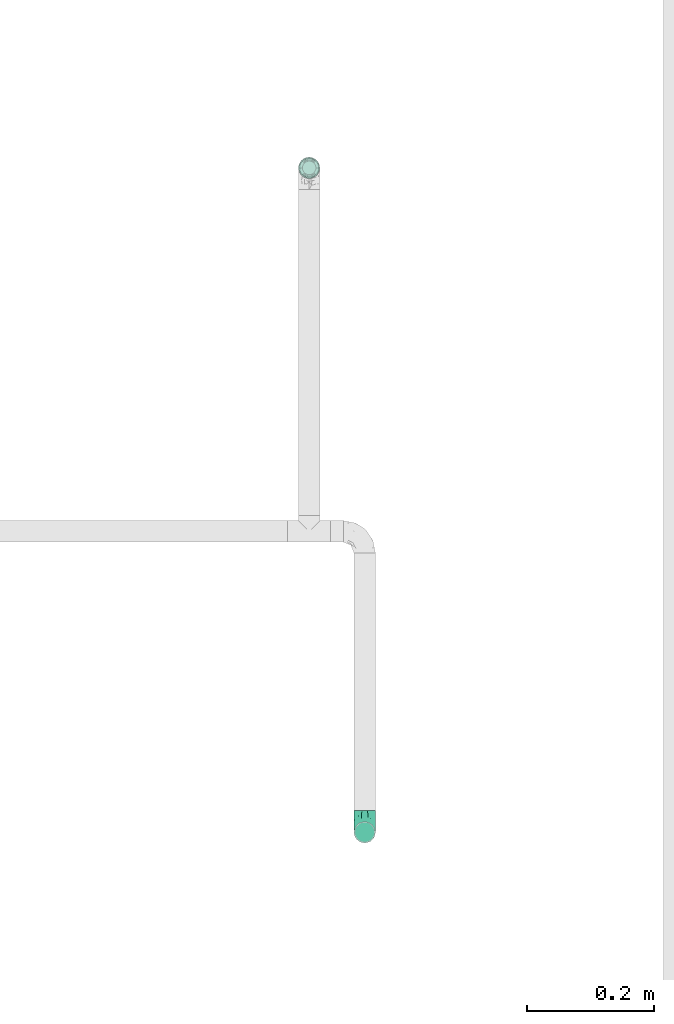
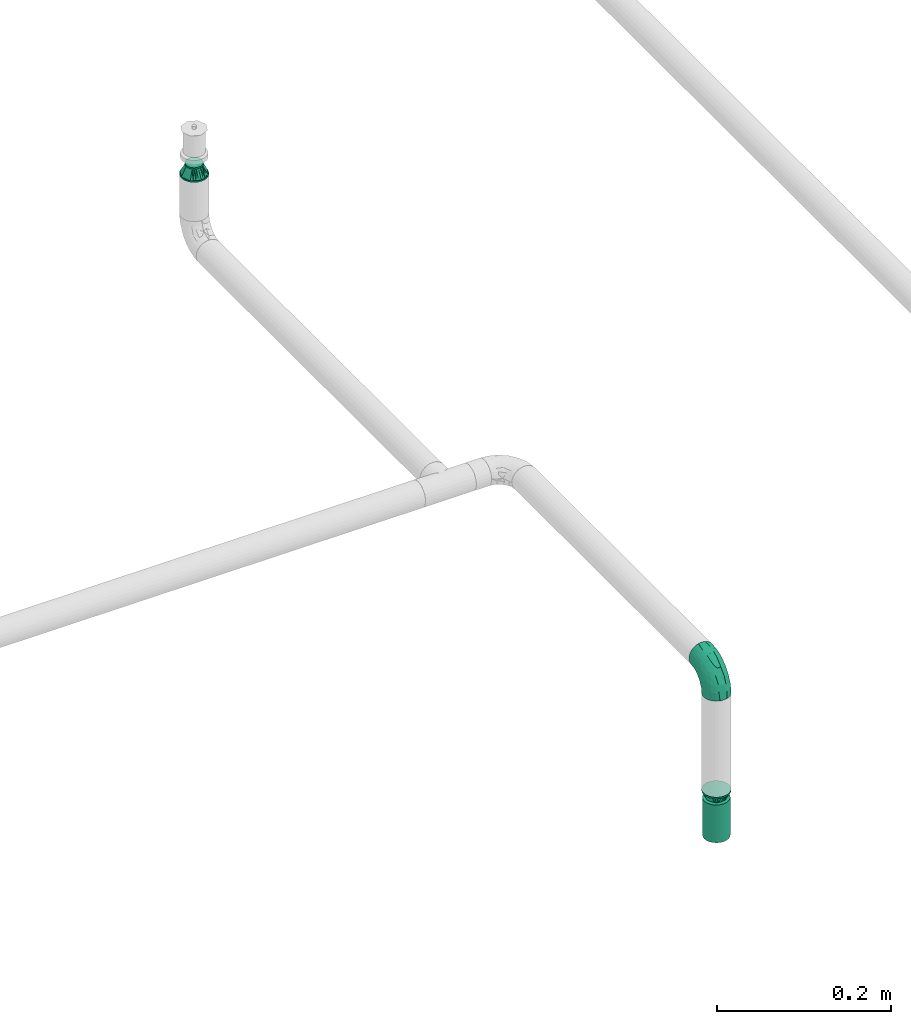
# One storey, part 123 of 157: 3 flow fittings, 1 flow terminal.
"""IFC2X3 building model written with IfcOpenShell, lengths in millimetres."""

from ifc_helpers import new_model, entity, si_unit, converted_unit, derived_unit, direction, frame, origin_with_axes, place, context, subcontext, project, spatial, open_shell, surface_model, source, transform, mapped, type_object, element, save


model = new_model("IFC2X3")

# Units and contexts
model_context = context("Model", 3, precision=0.01, world=frame((0.0, 4.29681676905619e-09, 0.0)), true_north=direction((4.01073788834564e-13, 1.0)))
plan_context = context("Plan", 3, precision=0.01, world=frame((0.0, 4.29681676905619e-09, 0.0)), true_north=direction((4.01073788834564e-13, 1.0)))
body_context = subcontext(model_context, "Body", "Model", "MODEL_VIEW")
ifc_project = project(units=[converted_unit("PLANEANGLEUNIT", "DEGREE", entity("IfcPositiveLengthMeasure", 0.0174532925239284), si_unit("PLANEANGLEUNIT", "RADIAN"), dimensions=[0, 0, 0, 0, 0, 0, 0]), si_unit("AREAUNIT", "SQUARE_METRE"), si_unit("LENGTHUNIT", "METRE", prefix="MILLI"), si_unit("MASSUNIT", "GRAM", prefix="KILO"), si_unit("POWERUNIT", "WATT"), si_unit("PRESSUREUNIT", "PASCAL"), si_unit("FORCEUNIT", "NEWTON", prefix="KILO"), si_unit("ELECTRICCURRENTUNIT", "AMPERE"), si_unit("THERMODYNAMICTEMPERATUREUNIT", "DEGREE_CELSIUS"), si_unit("TIMEUNIT", "SECOND"), si_unit("VOLUMEUNIT", "CUBIC_METRE"), derived_unit("LINEARVELOCITYUNIT", [(si_unit("LENGTHUNIT", "METRE"), 1), (si_unit("TIMEUNIT", "SECOND"), -1)]), derived_unit("VOLUMETRICFLOWRATEUNIT", [(si_unit("VOLUMEUNIT", "CUBIC_METRE"), 1), (si_unit("TIMEUNIT", "SECOND"), -1)]), derived_unit("THERMALTRANSMITTANCEUNIT", [(si_unit("POWERUNIT", "WATT"), 1), (si_unit("THERMODYNAMICTEMPERATUREUNIT", "KELVIN"), -1), (si_unit("AREAUNIT", "SQUARE_METRE"), -1)])], contexts=[model_context, plan_context])

# Site, building, storey
site_placement = place(None, frame((0.0, -4.29681676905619e-09, 0.0), z_axis=(0.0, 0.0, 1.0), x_axis=(1.0, 0.0, 0.0)))
site = spatial("IfcSite", under=ifc_project, at=site_placement, CompositionType="ELEMENT")
building_placement = place(site_placement, frame((0.0, 4.29681676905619e-09, 0.0), z_axis=(0.0, 0.0, 1.0), x_axis=(1.0, 0.0, 0.0)))
building = spatial("IfcBuilding", under=site, at=building_placement, Name="mc-building", CompositionType="ELEMENT")
storey_placement = place(building_placement, frame((0.0, 0.0, 204000.0), z_axis=(0.0, 0.0, 1.0), x_axis=(1.0, 0.0, 0.0)))
storey = spatial("IfcBuildingStorey", under=building, at=storey_placement, Name="Nivå D", CompositionType="ELEMENT", Elevation=204000.0)

# Flow fittings
pipe_fitting_type_1 = type_object("IfcPipeFittingType", Name="magi_pipe_fe_elbow_short_001", PredefinedType="BEND")
shared_shape_1 = source(origin_with_axes(), body_context, "Body", "SurfaceModel", [
    surface_model("IfcShellBasedSurfaceModel", [(-33.8, 8.45, -14.63583), (-33.8, 4.37404, -16.32415), (-33.8, 11.9501, -11.9501), (-33.8, -11.9501, -11.9501), (-33.8, -14.63583, -8.45), (-33.8, -8.45, -14.63583), (-33.8, 0.0, -16.9), (-33.8, -4.37404, -16.32415), (-33.8, -4.37404, 16.32415), (-33.8, 0.0, 16.9), (-33.8, -8.45, 14.63583), (-33.8, 16.32415, -4.37404), (-33.8, 14.63583, -8.45), (-33.8, -16.32415, -4.37404), (-33.8, -16.9, 0.0), (-33.8, -16.32415, 4.37404), (-33.8, 11.9501, 11.9501), (-33.8, 14.63583, 8.45), (-33.8, 16.32415, 4.37404), (-33.8, 4.37404, 16.32415), (-33.8, 8.45, 14.63583), (-33.8, -14.63583, 8.45), (-33.8, -11.9501, 11.9501), (-33.8, 16.9, 0.0), (-11.9501, 33.8, -11.9501), (0.0, 33.8, -16.9), (-4.37404, 33.8, -16.32415), (-8.45, 33.8, -14.63583), (-14.63583, 33.8, -8.45), (-16.32415, 33.8, -4.37404), (14.63583, 33.8, -8.45), (8.45, 33.8, 14.63583), (16.32415, 33.8, -4.37404), (8.45, 33.8, -14.63583), (11.9501, 33.8, -11.9501), (4.37404, 33.8, -16.32415), (16.32415, 33.8, 4.37404), (16.9, 33.8, 0.0), (-11.9501, 33.8, 11.9501), (-16.32415, 33.8, 4.37404), (-14.63583, 33.8, 8.45), (-8.45, 33.8, 14.63583), (-4.37404, 33.8, 16.32415), (11.9501, 33.8, 11.9501), (14.63583, 33.8, 8.45), (0.0, 33.8, 16.9), (4.37404, 33.8, 16.32415), (-16.9, 33.8, 0.0), (-24.79389, -13.12945, 9.48721), (-22.19287, -9.75018, 12.59315), (-24.09897, -14.97035, 0.0), (-14.93934, -10.76256, 8.5297), (-22.46095, -14.75051, 5.27077), (14.75051, 22.46094, 5.27077), (11.9251, 13.23888, 4.33236), (13.04069, 14.39795, 0.0), (7.71387, 13.68847, 11.55891), (9.75018, 22.19287, 12.59315), (4.10169, 13.0571, 14.04018), (-24.84007, -6.39063, 15.2048), (-25.81779, -2.23879, 16.61097), (-23.66549, 2.59054, 16.87119), (-26.50418, 14.06512, 11.08152), (-24.21253, 17.66365, 7.72657), (-29.58514, 15.86957, 7.00283), (-6.17382, -7.5455, 0.0), (-13.23888, -11.9251, 4.33236), (-14.39795, -13.04069, 0.0), (-17.81434, 18.87373, 11.97104), (-6.30846, 29.15138, 15.82987), (-2.31622, 25.28002, 16.85849), (-29.23923, 10.23435, 13.77053), (-1.45439, -2.85688, 7.61475), (-0.28326, 0.34872, 10.09509), (-5.74484, -4.04709, 10.4122), (-4.41137, 11.31918, 16.59407), (-8.39727, 3.10034, 15.7812), (-1.72649, 9.1306, 15.53089), (-17.39909, 24.75344, 7.64977), (-26.19233, 20.0512, 0.0), (-28.14518, 17.29657, 4.25857), (-26.05147, 6.6281, 15.96447), (-5.87354, 16.61944, 16.86968), (-12.51807, 12.51807, 16.48937), (-10.06312, 7.38516, 16.81295), (-3.01882, 3.01882, 13.81718), (-13.0571, -4.10169, 14.04018), (-16.82553, -0.15166, 16.38038), (10.76256, 14.93934, 8.5297), (13.12945, 24.79389, 9.48721), (6.39063, 24.84007, 15.2048), (2.23879, 25.81779, 16.61097), (-13.68847, -7.71387, 11.55891), (14.97035, 24.09897, 0.0), (-7.30894, 22.89991, 16.09489), (-10.67958, 26.17414, 14.008), (-12.78295, 18.26924, 15.06066), (-13.88562, 22.45231, 12.93244), (-18.04944, 15.16501, 14.04434), (-23.11658, 20.08178, 4.02986), (-21.84989, 21.84989, 0.0), (-18.55817, 25.48277, 3.93065), (-13.95142, 26.94732, 11.03289), (-18.57098, 7.23906, 16.59756), (-16.58335, 4.14122, 16.89279), (-17.96666, 11.46709, 15.63151), (-9.84453, 17.54304, 16.18938), (0.15166, 16.82553, 16.38038), (-23.27207, 11.47201, 14.23154), (3.84842, 5.86994, 10.70473), (-8.0212, -7.54413, 7.93275), (1.00345, -2.19508, 4.57414), (5.13203, 3.01004, 5.90201), (5.24161, 1.7543, 2.53265), (8.70457, 7.04947, 3.99182), (-20.0512, 26.19233, 0.0), (8.4852, 8.76699, 7.09296), (-4.55488, -6.72064, 4.90681), (2.05031, -2.05031, 0.0), (7.5455, 6.17382, 0.0), (-26.75399, 2.1369, -16.845), (-14.61995, 24.73803, -11.27736), (-28.45274, -13.45335, -9.81895), (-26.00469, 6.63555, -15.96645), (-23.06726, 20.04573, -4.26202), (-13.80647, -4.26506, -14.17873), (-14.67501, -0.21081, -16.07388), (-6.7902, -0.2828, -13.8478), (-24.53586, 11.08096, -14.13417), (-26.72048, 14.00837, -11.05776), (10.0967, 24.44989, -12.75976), (5.83237, 21.40218, -15.03047), (6.66249, 28.54238, -15.38093), (-20.38182, 15.48705, -12.74596), (12.53268, 21.23441, -9.15363), (12.54494, 15.67504, -5.54878), (9.7522, 12.89279, -8.66343), (-15.65186, 19.64213, -13.01327), (-12.03528, 20.66498, -14.67665), (-15.61907, 15.61906, -14.83879), (-25.56551, -15.26206, 0.0), (-24.65452, -15.12934, -5.50955), (13.45335, 28.45274, -9.81895), (15.12934, 24.65452, -5.50955), (-7.35442, -8.31014, -5.65563), (-15.67504, -12.54494, -5.54878), (-24.44989, -10.0967, -12.75976), (0.16522, 0.41303, -9.71728), (-5.70658, -5.33066, -8.89288), (-5.13869, -2.37198, -11.53565), (-21.23441, -12.53268, -9.15363), (0.71146, 7.93863, -14.09382), (0.21081, 14.67501, -16.07388), (3.49291, 14.42772, -14.76381), (-24.89911, -2.13088, -16.591), (-28.54238, -6.66249, -15.38093), (-18.44386, -7.71663, -13.26957), (2.13088, 24.89911, -16.591), (-28.64342, 17.44413, -2.89318), (1.70017, -1.28722, -5.09504), (-16.57067, 26.81947, -7.36596), (-17.69055, 27.4263, -3.76405), (-12.89279, -9.7522, -8.66343), (-5.96611, 5.96611, -15.95814), (-20.53709, 20.09345, -8.28985), (-2.1369, 26.75399, -16.845), (-6.89872, 24.58781, -16.02578), (-10.60739, 26.53157, -13.98044), (-21.40218, -5.83237, -15.03047), (2.93192, 5.89627, -11.55917), (6.89393, 12.61842, -11.82233), (5.58056, 5.95325, -8.79455), (-3.99512, 18.61798, -16.89635), (8.31014, 7.35442, -5.65563), (-9.1383, 9.86148, -16.89041), (-9.99983, 16.02119, -16.39699), (-16.68576, 9.78031, -16.34199), (-27.01915, 16.61158, -7.12979), (15.26206, 25.56551, 0.0), (-18.61798, 3.99512, -16.89635), (-19.37495, 27.82495, 0.0), (-12.61842, -6.89393, -11.82233), (-18.84705, 19.14018, -10.96545)], [open_shell([[[0, 1, 2]], [[3, 4, 5]], [[6, 7, 5]], [[8, 9, 10]], [[1, 6, 2]], [[11, 12, 2]], [[4, 2, 6]], [[2, 13, 10]], [[5, 4, 6]], [[2, 4, 13]], [[14, 15, 13]], [[11, 2, 16]], [[11, 17, 18]], [[11, 16, 17]], [[19, 20, 16]], [[16, 2, 10]], [[19, 16, 10]], [[21, 22, 15]], [[22, 13, 15]], [[22, 10, 13]], [[10, 9, 19]], [[11, 18, 23]], [[24, 25, 26]], [[24, 26, 27]], [[24, 28, 29]], [[25, 24, 30]], [[31, 32, 24]], [[33, 30, 34]], [[33, 35, 25]], [[25, 30, 33]], [[32, 30, 24]], [[32, 36, 37]], [[38, 24, 29]], [[39, 40, 29]], [[40, 38, 29]], [[38, 41, 42]], [[38, 31, 24]], [[31, 38, 42]], [[36, 43, 44]], [[36, 32, 43]], [[31, 45, 46]], [[32, 31, 43]], [[42, 45, 31]], [[39, 29, 47]], [[22, 48, 49]], [[15, 14, 50]], [[51, 48, 52]], [[53, 54, 55]], [[48, 22, 21]], [[15, 52, 21]], [[56, 57, 58]], [[49, 10, 22]], [[49, 59, 10]], [[9, 60, 61]], [[62, 63, 64]], [[65, 66, 67]], [[57, 43, 31]], [[62, 68, 63]], [[42, 69, 70]], [[20, 71, 16]], [[8, 60, 9]], [[72, 73, 74]], [[75, 76, 77]], [[16, 62, 17]], [[40, 39, 78]], [[79, 23, 80]], [[64, 18, 17]], [[9, 61, 19]], [[19, 81, 20]], [[82, 83, 84]], [[74, 85, 86]], [[59, 86, 87]], [[88, 89, 57]], [[90, 31, 46]], [[44, 53, 36]], [[46, 45, 91]], [[54, 53, 88]], [[44, 89, 53]], [[92, 86, 49]], [[89, 44, 43]], [[10, 59, 8]], [[53, 55, 93]], [[93, 36, 53]], [[66, 52, 67]], [[94, 82, 70]], [[95, 96, 94]], [[97, 98, 96]], [[79, 99, 100]], [[41, 38, 95]], [[101, 100, 99]], [[68, 78, 63]], [[42, 41, 69]], [[23, 18, 80]], [[95, 94, 69]], [[78, 101, 99]], [[38, 102, 95]], [[70, 45, 42]], [[97, 95, 102]], [[15, 50, 52]], [[90, 57, 31]], [[57, 90, 58]], [[81, 19, 61]], [[103, 104, 84]], [[105, 81, 103]], [[38, 40, 102]], [[106, 96, 83]], [[94, 106, 82]], [[91, 70, 107]], [[71, 62, 16]], [[62, 108, 98]], [[86, 59, 49]], [[67, 52, 50]], [[60, 59, 87]], [[92, 49, 51]], [[86, 85, 76]], [[91, 90, 46]], [[37, 36, 93]], [[107, 77, 58]], [[107, 58, 90]], [[58, 85, 109]], [[110, 74, 92]], [[72, 74, 110]], [[66, 51, 52]], [[72, 111, 112]], [[113, 114, 112]], [[56, 88, 57]], [[52, 48, 21]], [[49, 48, 51]], [[57, 89, 43]], [[53, 89, 88]], [[103, 81, 61]], [[71, 81, 108]], [[18, 64, 80]], [[63, 78, 99]], [[47, 115, 101]], [[101, 115, 100]], [[40, 78, 102]], [[68, 102, 78]], [[97, 96, 95]], [[105, 98, 108]], [[103, 84, 83]], [[107, 70, 82]], [[76, 84, 87]], [[82, 84, 75]], [[70, 91, 45]], [[90, 91, 107]], [[59, 60, 8]], [[61, 60, 87]], [[73, 85, 74]], [[109, 112, 116]], [[103, 61, 104]], [[105, 103, 83]], [[96, 105, 83]], [[81, 105, 108]], [[96, 98, 105]], [[62, 98, 68]], [[61, 87, 104]], [[87, 84, 104]], [[86, 76, 87]], [[77, 76, 85]], [[58, 77, 85]], [[75, 77, 107]], [[82, 75, 107]], [[76, 75, 84]], [[81, 71, 20]], [[62, 71, 108]], [[95, 69, 41]], [[70, 69, 94]], [[62, 64, 17]], [[80, 63, 99]], [[63, 80, 64]], [[80, 99, 79]], [[66, 65, 117]], [[110, 66, 117]], [[112, 114, 116]], [[118, 117, 65]], [[110, 92, 51]], [[112, 111, 113]], [[119, 55, 54]], [[74, 86, 92]], [[58, 109, 56]], [[116, 56, 109]], [[66, 110, 51]], [[72, 110, 117]], [[111, 72, 117]], [[73, 112, 109]], [[117, 118, 111]], [[113, 111, 118]], [[118, 119, 113]], [[114, 119, 54]], [[119, 114, 113]], [[116, 54, 88]], [[54, 116, 114]], [[116, 88, 56]], [[112, 73, 72]], [[85, 73, 109]], [[78, 39, 101]], [[47, 101, 39]], [[102, 68, 97]], [[97, 68, 98]], [[82, 106, 83]], [[94, 96, 106]], [[1, 120, 6]], [[28, 24, 121]], [[3, 122, 4]], [[0, 123, 1]], [[100, 124, 79]], [[125, 126, 127]], [[128, 2, 129]], [[130, 131, 132]], [[128, 129, 133]], [[134, 135, 136]], [[137, 138, 139]], [[128, 0, 2]], [[67, 140, 141]], [[134, 142, 143]], [[141, 13, 4]], [[144, 65, 145]], [[146, 3, 5]], [[147, 148, 149]], [[145, 141, 150]], [[151, 152, 153]], [[154, 7, 6]], [[5, 155, 146]], [[150, 146, 156]], [[155, 5, 7]], [[143, 135, 134]], [[35, 157, 25]], [[23, 79, 158]], [[148, 159, 144]], [[160, 161, 29]], [[145, 162, 144]], [[163, 152, 151]], [[29, 28, 160]], [[121, 164, 160]], [[33, 34, 130]], [[25, 165, 26]], [[26, 165, 166]], [[142, 34, 30]], [[24, 27, 167]], [[124, 161, 164]], [[157, 35, 132]], [[155, 154, 168]], [[123, 0, 128]], [[169, 170, 171]], [[172, 157, 152]], [[26, 166, 27]], [[132, 35, 33]], [[142, 130, 34]], [[168, 154, 126]], [[136, 135, 173]], [[133, 137, 139]], [[2, 12, 129]], [[170, 131, 130]], [[30, 32, 143]], [[172, 174, 175]], [[176, 123, 128]], [[158, 177, 11]], [[135, 55, 119]], [[167, 27, 166]], [[175, 166, 172]], [[137, 167, 138]], [[122, 141, 4]], [[140, 14, 13]], [[32, 37, 178]], [[170, 130, 134]], [[152, 157, 131]], [[165, 157, 172]], [[153, 170, 151]], [[152, 163, 174]], [[168, 125, 156]], [[122, 146, 150]], [[120, 154, 6]], [[179, 174, 126]], [[179, 126, 154]], [[126, 163, 127]], [[162, 145, 150]], [[140, 13, 141]], [[32, 178, 143]], [[55, 143, 178]], [[177, 129, 12]], [[128, 133, 139]], [[176, 128, 139]], [[120, 123, 179]], [[121, 160, 28]], [[161, 100, 180]], [[166, 175, 138]], [[121, 24, 167]], [[161, 47, 29]], [[79, 124, 158]], [[124, 164, 177]], [[161, 124, 100]], [[136, 171, 170]], [[127, 163, 151]], [[147, 171, 159]], [[148, 144, 162]], [[127, 151, 169]], [[127, 181, 125]], [[129, 177, 164]], [[12, 11, 177]], [[159, 65, 144]], [[67, 141, 145]], [[143, 55, 135]], [[135, 119, 173]], [[123, 120, 1]], [[154, 120, 179]], [[157, 165, 25]], [[166, 165, 172]], [[172, 152, 174]], [[176, 139, 175]], [[126, 174, 163]], [[176, 174, 179]], [[174, 176, 175]], [[123, 176, 179]], [[150, 181, 162]], [[127, 149, 181]], [[181, 148, 162]], [[159, 148, 147]], [[171, 136, 173]], [[170, 134, 136]], [[159, 171, 173]], [[171, 147, 169]], [[169, 147, 149]], [[151, 170, 169]], [[164, 182, 129]], [[182, 121, 137]], [[181, 149, 148]], [[169, 149, 127]], [[182, 137, 133]], [[167, 137, 121]], [[166, 138, 167]], [[175, 139, 138]], [[129, 182, 133]], [[121, 182, 164]], [[161, 160, 164]], [[47, 161, 180]], [[177, 158, 124]], [[23, 158, 11]], [[130, 132, 33]], [[157, 132, 131]], [[143, 142, 30]], [[130, 142, 134]], [[154, 155, 7]], [[146, 155, 168]], [[146, 122, 3]], [[141, 122, 150]], [[152, 131, 153]], [[159, 119, 118]], [[67, 145, 65]], [[170, 153, 131]], [[119, 159, 173]], [[159, 118, 65]], [[156, 125, 181]], [[126, 125, 168]], [[150, 156, 181]], [[168, 156, 146]]])]),
])
flow_fitting_placement = place(storey_placement, frame((530612.35289, 415554.99489, 2600.0), z_axis=(-1.0, 0.0, 0.0), x_axis=(0.0, 0.0, 1.0)))
element("IfcFlowFitting", 1, at=flow_fitting_placement, inside=storey, type_object=pipe_fitting_type_1, Name="magi_pipe_fe_elbow_short_001", context=body_context, shape_type="MappedRepresentation", body=[
    mapped(shared_shape_1, transform((0.0, 0.0, 0.0), scale=1.0)),
])
pipe_fitting_type_2 = type_object("IfcPipeFittingType", Name="magi_pipe_fe_reducer_centric_short_NOR", PredefinedType="TRANSITION")
shared_shape_2 = source(origin_with_axes(), body_context, "Body", "SurfaceModel", [
    surface_model("IfcShellBasedSurfaceModel", [(-2.0, -7.56604, -7.56604), (-2.0, -10.33541, -2.76936), (-2.0, -5.35, -9.26647), (-2.0, 5.35, -9.26647), (-2.0, 10.33541, -2.76936), (-2.0, 7.56604, -7.56604), (12.4, 11.9501, 11.9501), (12.4, 0.0, 16.9), (12.4, 11.9501, -11.9501), (12.4, 16.9, 0.0), (0.0, -10.7, 0.0), (0.0, -5.35, 9.26647), (0.0, -5.35, -9.26647), (0.0, 10.7, 0.0), (12.4, 15.66253, -2.98753), (12.4, 8.96258, -13.18758), (0.0, 6.6875, -6.94985), (12.4, -15.66253, -2.98753), (12.4, -16.9, 0.0), (12.4, 5.97505, -14.42505), (0.0, 5.35, -9.26647), (12.4, 14.42505, -5.97505), (0.0, 8.025, -4.63324), (0.0, 9.3625, -2.31662), (0.0, -9.3625, -2.31662), (0.0, -8.025, -4.63324), (12.4, -14.42505, -5.97505), (12.4, 13.18758, -8.96258), (12.4, -13.18758, -8.96258), (12.4, -11.9501, -11.9501), (0.0, -6.6875, -6.94985), (12.4, -8.96258, -13.18758), (12.4, -5.97505, -14.42505), (12.4, -15.66253, 2.98753), (12.4, -8.96258, 13.18758), (0.0, -6.6875, 6.94985), (12.4, -11.9501, 11.9501), (12.4, 15.66253, 2.98753), (12.4, -5.97505, 14.42505), (12.4, -14.42505, 5.97505), (0.0, -8.025, 4.63324), (0.0, -9.3625, 2.31662), (0.0, 9.3625, 2.31662), (0.0, 8.025, 4.63324), (12.4, 14.42505, 5.97505), (12.4, -13.18758, 8.96258), (12.4, 13.18758, 8.96258), (0.0, 6.6875, 6.94985), (12.4, 8.96258, 13.18758), (0.0, 5.35, 9.26647), (12.4, 5.97505, 14.42505), (14.4, 4.37404, -16.32415), (14.4, 8.45, -14.63583), (14.4, 11.9501, -11.9501), (14.4, -8.45, -14.63583), (14.4, 16.32415, -4.37404), (14.4, 16.32415, 4.37404), (14.4, 14.63583, -8.45), (14.4, 0.0, -16.9), (14.4, -4.37404, -16.32415), (14.4, -11.9501, -11.9501), (14.4, -16.32415, -4.37404), (14.4, -14.63583, -8.45), (14.4, -16.32415, 4.37404), (14.4, 16.9, 0.0), (14.4, 14.63583, 8.45), (14.4, 11.9501, 11.9501), (14.4, 4.37404, 16.32415), (14.4, 8.45, 14.63583), (14.4, 0.0, 16.9), (14.4, -14.63583, 8.45), (14.4, -16.9, 0.0), (14.4, -8.45, 14.63583), (14.4, -11.9501, 11.9501), (14.4, -4.37404, 16.32415), (12.4, 4.37404, 16.32415), (12.4, -14.63583, 8.45), (12.4, 16.32415, 4.37404), (12.4, 8.45, 14.63583), (12.4, 14.63583, 8.45), (12.4, -8.45, 14.63583), (12.4, -4.37404, 16.32415), (12.4, -16.32415, 4.37404), (12.4, -16.32415, -4.37404), (12.4, -8.45, -14.63583), (12.4, 16.32415, -4.37404), (12.4, 14.63583, -8.45), (12.4, 8.45, -14.63583), (12.4, 4.37404, -16.32415), (12.4, 0.0, -16.9), (12.4, -14.63583, -8.45), (12.4, -4.37404, -16.32415), (-2.0, 2.76936, 10.33541), (-2.0, 0.0, 10.7), (-2.0, 5.35, 9.26647), (-2.0, 7.56604, 7.56604), (-2.0, 9.26647, 5.35), (-2.0, 10.33541, 2.76936), (-2.0, -10.33541, 2.76936), (-2.0, -2.76936, 10.33541), (-2.0, -7.56604, 7.56604), (-2.0, -5.35, 9.26647), (-2.0, -9.26647, 5.35), (-2.0, -10.7, 0.0), (-2.0, 9.26647, -5.35), (-2.0, 2.76936, -10.33541), (-2.0, -9.26647, -5.35), (-2.0, 0.0, -10.7), (-2.0, -2.76936, -10.33541), (-2.0, 10.7, 0.0), (0.0, 0.0, -10.7), (0.0, 2.76936, -10.33541), (0.0, 10.33541, -2.76936), (0.0, 7.56604, -7.56604), (0.0, -10.33541, -2.76936), (0.0, 9.26647, -5.35), (0.0, 0.0, 10.7), (0.0, -2.76936, -10.33541), (0.0, -7.56604, -7.56604), (0.0, -9.26647, -5.35), (0.0, 10.33541, 2.76936), (0.0, 9.26647, 5.35), (0.0, 7.56604, 7.56604), (0.0, 2.76936, 10.33541), (0.0, -7.56604, 7.56604), (0.0, -10.33541, 2.76936), (0.0, -9.26647, 5.35), (0.0, -2.76936, 10.33541), (0.0, 2.675, -9.26647), (0.0, -2.675, -9.26647), (12.4, 2.98753, -15.66253), (0.0, 0.0, -9.26647), (12.4, -2.98753, -15.66253), (0.0, -2.675, 9.26647), (0.0, 2.675, 9.26647), (12.4, -2.98753, 15.66253), (0.0, 0.0, 9.26647), (12.4, 2.98753, 15.66253)], [open_shell([[[0, 1, 2]], [[3, 4, 5]], [[6, 7, 8]], [[8, 9, 6]], [[10, 11, 12]], [[13, 9, 14]], [[15, 16, 8]], [[17, 18, 10]], [[15, 19, 20]], [[21, 22, 23]], [[24, 25, 26]], [[22, 21, 27]], [[28, 26, 25]], [[29, 30, 31]], [[12, 32, 31]], [[10, 18, 33]], [[34, 35, 36]], [[37, 9, 13]], [[34, 38, 11]], [[39, 40, 41]], [[42, 43, 44]], [[40, 39, 45]], [[46, 44, 43]], [[6, 47, 48]], [[49, 50, 48]], [[51, 52, 53]], [[54, 51, 53]], [[53, 55, 56]], [[55, 53, 57]], [[53, 56, 54]], [[58, 54, 59]], [[58, 51, 54]], [[60, 61, 62]], [[61, 60, 54]], [[54, 63, 61]], [[56, 55, 64]], [[56, 65, 66]], [[56, 66, 67]], [[67, 63, 54]], [[67, 66, 68]], [[63, 67, 69]], [[69, 70, 63]], [[71, 61, 63]], [[70, 72, 73]], [[70, 69, 72]], [[72, 69, 74]], [[54, 56, 67]], [[75, 76, 7]], [[77, 75, 78]], [[6, 79, 77]], [[6, 77, 78]], [[76, 75, 77]], [[80, 76, 36]], [[80, 81, 7]], [[7, 76, 80]], [[82, 76, 77]], [[82, 83, 18]], [[82, 77, 84]], [[77, 85, 8]], [[8, 85, 86]], [[8, 87, 88]], [[84, 77, 8]], [[88, 89, 8]], [[83, 29, 90]], [[29, 83, 84]], [[84, 89, 91]], [[83, 82, 84]], [[8, 89, 84]], [[85, 77, 9]], [[83, 61, 18]], [[90, 62, 83]], [[54, 29, 84]], [[90, 29, 60]], [[59, 84, 91]], [[83, 62, 61]], [[61, 71, 18]], [[59, 54, 84]], [[60, 29, 54]], [[60, 62, 90]], [[58, 59, 91]], [[91, 89, 58]], [[88, 51, 89]], [[87, 52, 88]], [[57, 8, 86]], [[87, 8, 53]], [[55, 86, 85]], [[87, 53, 52]], [[52, 51, 88]], [[64, 55, 85]], [[57, 86, 55]], [[57, 53, 8]], [[9, 64, 85]], [[89, 51, 58]], [[77, 56, 9]], [[79, 65, 77]], [[68, 6, 78]], [[79, 6, 66]], [[67, 78, 75]], [[77, 65, 56]], [[56, 64, 9]], [[67, 68, 78]], [[66, 6, 68]], [[66, 65, 79]], [[69, 67, 75]], [[75, 7, 69]], [[81, 74, 7]], [[80, 72, 81]], [[70, 36, 76]], [[80, 36, 73]], [[63, 76, 82]], [[80, 73, 72]], [[72, 74, 81]], [[71, 63, 82]], [[70, 76, 63]], [[70, 73, 36]], [[18, 71, 82]], [[7, 74, 69]], [[92, 1, 93]], [[94, 1, 92]], [[95, 96, 97]], [[95, 97, 94]], [[98, 93, 1]], [[99, 100, 101]], [[99, 93, 100]], [[100, 98, 102]], [[93, 98, 100]], [[98, 1, 103]], [[94, 97, 1]], [[1, 97, 4]], [[5, 4, 104]], [[4, 3, 1]], [[105, 1, 3]], [[1, 0, 106]], [[2, 107, 108]], [[2, 1, 105]], [[105, 107, 2]], [[4, 97, 109]], [[20, 110, 111]], [[112, 20, 113]], [[114, 20, 112]], [[112, 113, 115]], [[116, 114, 112]], [[110, 12, 117]], [[110, 20, 12]], [[118, 114, 119]], [[114, 118, 12]], [[20, 114, 12]], [[112, 13, 120]], [[120, 121, 122]], [[120, 122, 123]], [[116, 112, 123]], [[123, 122, 49]], [[116, 124, 114]], [[125, 124, 126]], [[10, 114, 125]], [[124, 127, 11]], [[125, 114, 124]], [[127, 124, 116]], [[123, 112, 120]], [[1, 114, 103]], [[106, 119, 1]], [[12, 0, 2]], [[106, 0, 118]], [[117, 2, 108]], [[1, 119, 114]], [[114, 10, 103]], [[117, 12, 2]], [[118, 0, 12]], [[118, 119, 106]], [[110, 117, 108]], [[108, 107, 110]], [[105, 111, 107]], [[3, 20, 105]], [[115, 5, 104]], [[3, 5, 113]], [[112, 104, 4]], [[3, 113, 20]], [[20, 111, 105]], [[13, 112, 4]], [[115, 104, 112]], [[115, 113, 5]], [[109, 13, 4]], [[107, 111, 110]], [[97, 120, 109]], [[96, 121, 97]], [[49, 95, 94]], [[96, 95, 122]], [[123, 94, 92]], [[97, 121, 120]], [[120, 13, 109]], [[123, 49, 94]], [[122, 95, 49]], [[122, 121, 96]], [[116, 123, 92]], [[92, 93, 116]], [[99, 127, 93]], [[101, 11, 99]], [[126, 100, 102]], [[101, 100, 124]], [[125, 102, 98]], [[101, 124, 11]], [[11, 127, 99]], [[10, 125, 98]], [[126, 102, 125]], [[126, 124, 100]], [[103, 10, 98]], [[93, 127, 116]], [[18, 7, 36]], [[18, 29, 8]], [[89, 8, 29]], [[18, 8, 7]], [[13, 11, 49]], [[13, 20, 12]], [[13, 12, 11]], [[24, 26, 17]], [[10, 24, 17]], [[16, 15, 20]], [[30, 12, 31]], [[23, 14, 21]], [[19, 128, 20]], [[27, 8, 16]], [[32, 12, 129]], [[30, 28, 25]], [[130, 131, 128]], [[129, 132, 32]], [[16, 22, 27]], [[13, 14, 23]], [[128, 19, 130]], [[130, 89, 131]], [[131, 132, 129]], [[89, 132, 131]], [[28, 30, 29]], [[42, 44, 37]], [[13, 42, 37]], [[35, 34, 11]], [[47, 49, 48]], [[41, 33, 39]], [[38, 133, 11]], [[45, 36, 35]], [[50, 49, 134]], [[47, 46, 43]], [[135, 136, 133]], [[134, 137, 50]], [[35, 40, 45]], [[10, 33, 41]], [[133, 38, 135]], [[135, 7, 136]], [[136, 137, 134]], [[7, 137, 136]], [[46, 47, 6]]])]),
])
for number, where, z_axis, x_axis, name in (
    (2, (530524.76823, 416603.03219, 2703.04800000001), (0.0, -1.0, 0.0), (0.0, 0.0, -1.0), "magi_pipe_fe_reducer_centric_short_NOR"),
    (3, (530612.35289, 415554.99489, 2416.95199999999), (0.0, -1.0, 0.0), (0.0, 0.0, 1.0), "magi_pipe_fe_reducer_centric_short_NOR"),
):
    element("IfcFlowFitting", number, at=place(storey_placement, frame(where, z_axis=z_axis, x_axis=x_axis)), inside=storey, type_object=pipe_fitting_type_2, Name=name, context=body_context, shape_type="MappedRepresentation", body=[
        mapped(shared_shape_2, transform((0.0, 0.0, 0.0), scale=1.0)),
    ])

# Flow terminal
fire_suppression_terminal_type = type_object("IfcFireSuppressionTerminalType", Name="SP-15-K80-68DGR-STD-NEDOVER-TØRR", PredefinedType="NOTDEFINED")
shared_shape_3 = source(origin_with_axes(), body_context, "Body", "SurfaceModel", [
    surface_model("IfcShellBasedSurfaceModel", [(4.1411, -15.45481, 53.0), (8.0, -13.85641, 53.0), (11.31371, -11.31371, 53.0), (-8.0, -13.85641, 53.0), (15.45481, -4.1411, 53.0), (16.0, 0.0, 53.0), (13.85641, -8.0, 53.0), (0.0, -16.0, 53.0), (-4.1411, -15.45481, 53.0), (-13.85641, -8.0, 53.0), (-11.31371, -11.31371, 53.0), (-15.45481, -4.1411, 53.0), (15.45481, 4.1411, 53.0), (13.85641, 8.0, 53.0), (11.31371, 11.31371, 53.0), (-4.1411, 15.45481, 53.0), (8.0, 13.85641, 53.0), (4.1411, 15.45481, 53.0), (0.0, 16.0, 53.0), (-13.85641, 8.0, 53.0), (-15.45481, 4.1411, 53.0), (-16.0, 0.0, 53.0), (-11.31371, 11.31371, 53.0), (-8.0, 13.85641, 53.0), (0.0, 16.0, 0.0), (4.1411, 15.45481, 0.0), (8.0, 13.85641, 0.0), (-4.1411, 15.45481, 0.0), (11.31371, 11.31371, 0.0), (13.85641, 8.0, 0.0), (15.45481, 4.1411, 0.0), (-15.45481, -4.1411, 0.0), (-11.31371, 11.31371, 0.0), (-8.0, 13.85641, 0.0), (-13.85641, 8.0, 0.0), (-15.45481, 4.1411, 0.0), (-16.0, 0.0, 0.0), (4.1411, -15.45481, 0.0), (16.0, 0.0, 0.0), (15.45481, -4.1411, 0.0), (13.85641, -8.0, 0.0), (11.31371, -11.31371, 0.0), (8.0, -13.85641, 0.0), (-8.0, -13.85641, 0.0), (-13.85641, -8.0, 0.0), (-11.31371, -11.31371, 0.0), (0.0, -16.0, 0.0), (-4.1411, -15.45481, 0.0)], [open_shell([[[0, 1, 2]], [[3, 0, 2]], [[4, 5, 2]], [[4, 2, 6]], [[3, 2, 5]], [[7, 3, 8]], [[7, 0, 3]], [[3, 9, 10]], [[9, 3, 11]], [[5, 11, 3]], [[5, 12, 11]], [[12, 13, 14]], [[15, 12, 14]], [[16, 17, 18]], [[14, 16, 15]], [[18, 15, 16]], [[11, 19, 20]], [[21, 11, 20]], [[22, 15, 23]], [[15, 22, 19]], [[19, 11, 15]], [[11, 12, 15]], [[24, 25, 26]], [[27, 24, 26]], [[28, 29, 30]], [[27, 26, 28]], [[27, 28, 31]], [[27, 32, 33]], [[32, 27, 34]], [[34, 31, 35]], [[31, 34, 27]], [[35, 31, 36]], [[28, 30, 31]], [[37, 38, 39]], [[37, 39, 40]], [[41, 42, 37]], [[41, 37, 40]], [[38, 37, 43]], [[44, 43, 45]], [[43, 44, 31]], [[43, 46, 47]], [[43, 31, 38]], [[37, 46, 43]], [[38, 31, 30]], [[11, 31, 44]], [[45, 9, 44]], [[3, 43, 47]], [[45, 43, 10]], [[8, 47, 46]], [[31, 21, 36]], [[31, 11, 21]], [[44, 9, 11]], [[45, 10, 9]], [[3, 10, 43]], [[47, 8, 3]], [[46, 7, 8]], [[0, 37, 42]], [[41, 1, 42]], [[6, 40, 39]], [[41, 40, 2]], [[4, 39, 38]], [[37, 0, 7]], [[42, 1, 0]], [[41, 2, 1]], [[40, 6, 2]], [[4, 6, 39]], [[38, 5, 4]], [[37, 7, 46]], [[12, 38, 30]], [[13, 30, 29]], [[16, 26, 25]], [[17, 25, 24]], [[30, 13, 12]], [[12, 5, 38]], [[28, 14, 13]], [[28, 26, 14]], [[14, 26, 16]], [[25, 17, 16]], [[28, 13, 29]], [[24, 18, 17]], [[15, 27, 33]], [[32, 23, 33]], [[19, 34, 35]], [[32, 34, 22]], [[20, 35, 36]], [[27, 15, 18]], [[33, 23, 15]], [[32, 22, 23]], [[34, 19, 22]], [[20, 19, 35]], [[36, 21, 20]], [[27, 18, 24]]])]),
])
flow_terminal_placement = place(storey_placement, frame((530612.35289, 415554.99489, 2420.0), z_axis=(0.0, 0.0, -1.0), x_axis=(1.0, 0.0, 0.0)))
element("IfcFlowTerminal", 4, at=flow_terminal_placement, inside=storey, type_object=fire_suppression_terminal_type, Name="SP-15-K80-68DGR-STD-NEDOVER-TØRR", context=body_context, shape_type="MappedRepresentation", body=[
    mapped(shared_shape_3, transform((0.0, 0.0, 0.0), scale=1.0)),
])

save(model, "model.ifc")
